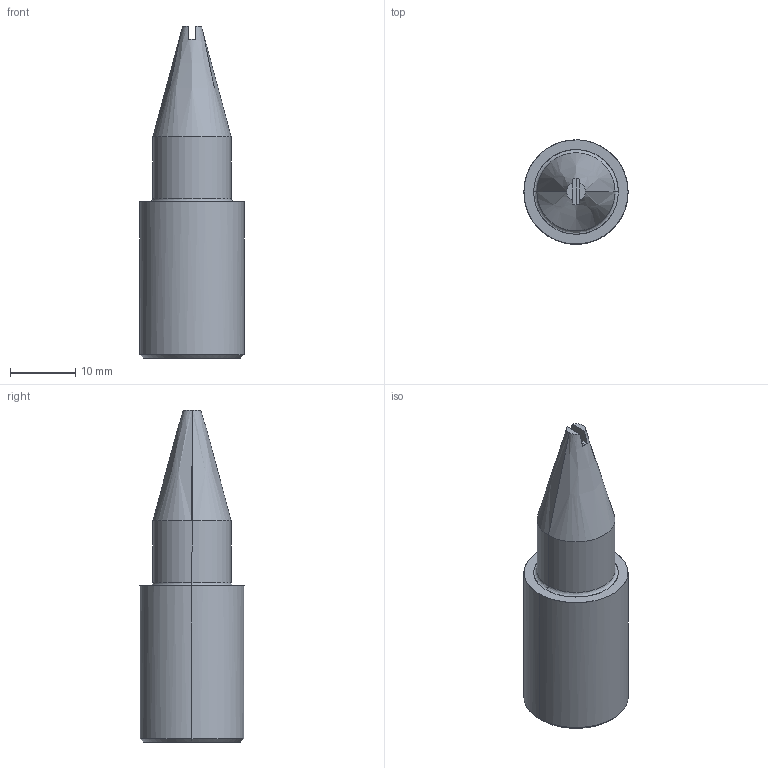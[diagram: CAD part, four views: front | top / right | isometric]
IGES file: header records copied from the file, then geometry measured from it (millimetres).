
Global section: file name: E:\UnigraphicsGraphicData\MISUMI_PRESS-PARTS\IGES\3d_sdst16_03099_r00.igs; native system: NX V5.0; preprocessor: UGS NX IGES V5.0; author: MISUMI; date: 20110105.162517; units: millimetre
Bounding box: 16 x 16 x 51 mm (x, y, z)
Surface area: 2906.7 mm2 (no closed solid volume)
Topology: 0 solids, 0 shells, 21 faces, 120 edges, 120 vertices
Faces by surface type: bspline 21
